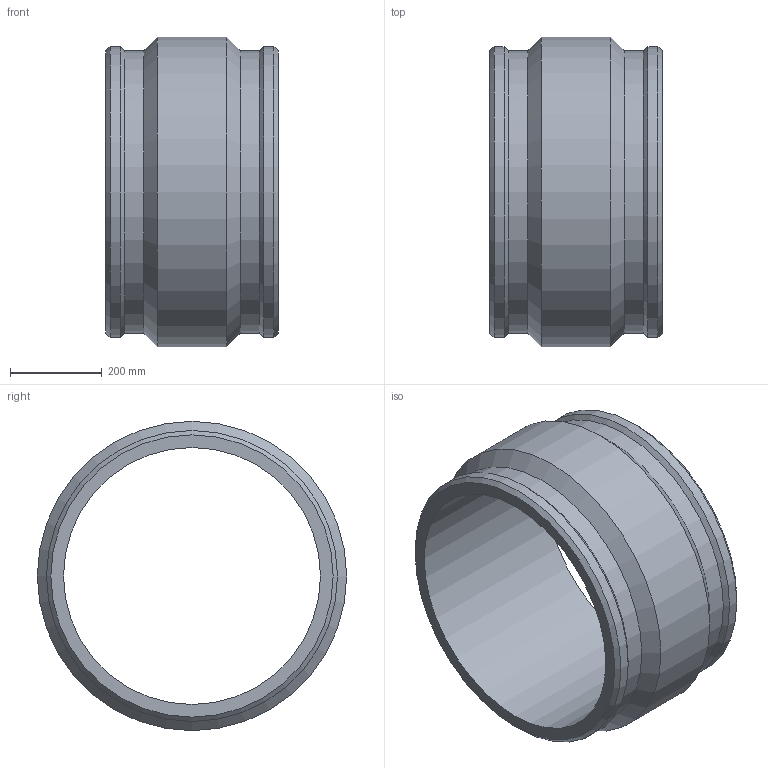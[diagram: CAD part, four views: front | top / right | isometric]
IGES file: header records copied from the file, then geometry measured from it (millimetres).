
Global section: file name: 490103560.ipt; native system: Autodesk Inventor 2015; preprocessor: unknown; author: KIM; date: 20190421.151308; units: millimetre
Bounding box: 376 x 674 x 674 mm (x, y, z)
Volume: 30984675.3 mm3; surface area: 1608143.4 mm2
Topology: 1 solids, 1 shells, 28 faces, 52 edges, 30 vertices
Faces by surface type: cylinder 11, plane 8, cone 6, revolution 3
Full cylindrical faces by diameter (mm): 4 x2, 614.98 x2, 634 x2, 674 x1
